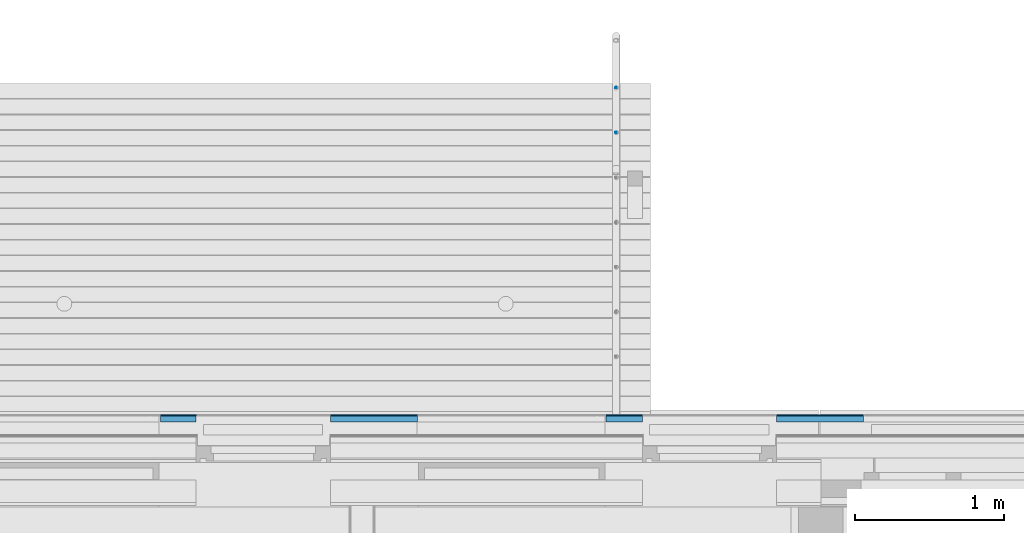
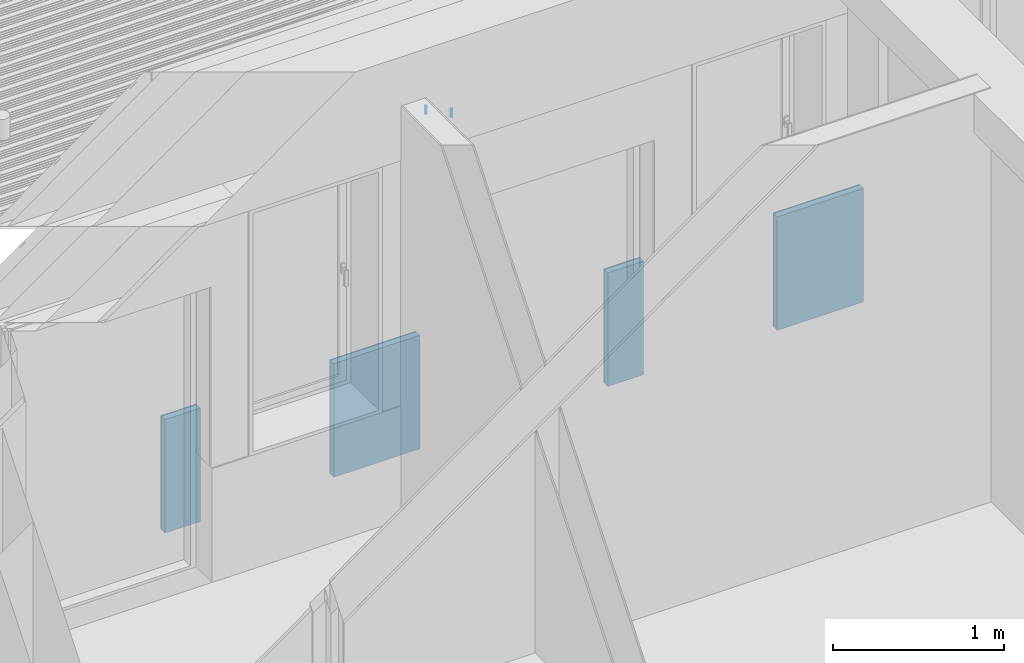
# One storey, part 65 of 418: 9 building element parts, 6 elements without a shape of their own.
"""IFC2X3 building model written with IfcOpenShell, lengths in millimetres."""

from ifc_helpers import new_model, entity, si_unit, converted_unit, derived_unit, money_unit, direction, frame, origin_with_axes, place, context, subcontext, project, spatial, polyline, outline, extrude, faceted_brep, source, transform, mapped, material, type_object, element, aggregate, save


model = new_model("IFC2X3")

# Units and contexts
model_context = context("Model", 3, precision=0.01, world=origin_with_axes(), true_north=direction((0.0, 1.0)))
body_context = subcontext(model_context, "Body", "Model", "MODEL_VIEW")
ifc_project = project(units=[si_unit("LENGTHUNIT", "METRE", prefix="MILLI"), si_unit("AREAUNIT", "SQUARE_METRE"), si_unit("VOLUMEUNIT", "CUBIC_METRE"), converted_unit("PLANEANGLEUNIT", "DEGREE", entity("IfcPlaneAngleMeasure", 0.0174532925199), si_unit("PLANEANGLEUNIT", "RADIAN"), dimensions=[0, 0, 0, 0, 0, 0, 0]), si_unit("SOLIDANGLEUNIT", "STERADIAN"), money_unit("EUR"), converted_unit("TIMEUNIT", "Year", entity("IfcTimeMeasure", 31556926.0), si_unit("TIMEUNIT", "SECOND"), dimensions=[0, 0, 1, 0, 0, 0, 0]), si_unit("MASSUNIT", "GRAM", prefix="KILO"), si_unit("THERMODYNAMICTEMPERATUREUNIT", "DEGREE_CELSIUS"), si_unit("LUMINOUSINTENSITYUNIT", "LUMEN"), si_unit("ENERGYUNIT", "JOULE", prefix="MEGA"), derived_unit("THERMALCONDUCTANCEUNIT", [(si_unit("POWERUNIT", "WATT"), 1), (si_unit("LENGTHUNIT", "METRE"), -1), (si_unit("THERMODYNAMICTEMPERATUREUNIT", "KELVIN"), -1)]), derived_unit("SPECIFICHEATCAPACITYUNIT", [(si_unit("ENERGYUNIT", "JOULE"), 1), (si_unit("MASSUNIT", "GRAM", prefix="KILO"), -1), (si_unit("THERMODYNAMICTEMPERATUREUNIT", "KELVIN"), -1)]), derived_unit("MASSDENSITYUNIT", [(si_unit("MASSUNIT", "GRAM", prefix="KILO"), 1), (si_unit("VOLUMEUNIT", "CUBIC_METRE"), -1)])], contexts=[model_context])

# Site, building, storey
site_placement = place(None, origin_with_axes())
site = spatial("IfcSite", under=ifc_project, at=site_placement, Name="Paldiski mnt 245/1, Tallinn, Harjumaa", CompositionType="COMPLEX")
building_placement = place(site_placement, origin_with_axes())
building = spatial("IfcBuilding", under=site, at=building_placement, Name="RKAS Hoone üldnimetus (kasutust iseloomustav) -> IFC Project Manager -> SOLIBRI", CompositionType="ELEMENT")
storey_placement = place(building_placement, origin_with_axes())
storey = spatial("IfcBuildingStorey", under=building, at=storey_placement, Name="Esimene korrus", CompositionType="ELEMENT", Elevation=0.0)

# Proxies, building element part
building_element_proxy_type_1 = type_object("IfcBuildingElementProxyType", Name="Railing Type", PredefinedType="NOTDEFINED")
proxy_1_placement = place(storey_placement, frame((-36811.0, 460.000000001, -500.846302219), z_axis=(0.0, 0.0, 1.0), x_axis=(1.0, 0.0, 0.0)))
proxy_1 = element("IfcBuildingElementProxy", 1, at=proxy_1_placement, inside=storey, type_object=building_element_proxy_type_1, Name="Trepipiire")
building_element_proxy_type_2 = type_object("IfcBuildingElementProxyType", Name="IfcBuildingElementProxy", PredefinedType="NOTDEFINED")
proxy_2_placement = place(proxy_1_placement, frame((0.0, 2144.92080789, 944.098300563), z_axis=(0.0, 0.0, 1.0), x_axis=(1.0, 0.0, 0.0)))
proxy_2 = element("IfcBuildingElementProxy", 2, at=proxy_2_placement, type_object=building_element_proxy_type_2, Name="ÜL PIIRE - 001")
aggregate(proxy_1, [proxy_2])
ifc_material_1 = material(Name="Teras - Konstruktsioon")
shared_shape = source(origin_with_axes(), body_context, "Body", "Brep", [
    faceted_brep([(-4.33012701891, 268.041857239, 748.809799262), (-3.83022221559, 267.32791919, 748.809799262), (-3.83022221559, 267.32791919, 801.480453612), (-4.33012701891, 268.041857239, 801.480453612), (-4.69846310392, 268.831756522, 748.809799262), (-4.92403876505, 269.67361635, 748.809799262), (-4.99999999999, 270.541857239, 748.809799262), (-4.92403876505, 271.410098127, 748.809799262), (-4.69846310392, 272.251957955, 748.809799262), (-4.33012701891, 273.041857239, 748.809799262), (-3.83022221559, 273.755795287, 748.809799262), (-3.21393804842, 274.372079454, 748.809799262), (-2.49999999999, 274.871984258, 748.809799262), (-1.71010071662, 275.240320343, 748.809799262), (-0.868240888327, 275.465896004, 748.809799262), (0.0, 275.541857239, 748.809799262), (0.868240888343, 275.465896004, 748.809799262), (1.71010071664, 275.240320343, 748.809799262), (2.50000000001, 274.871984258, 748.809799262), (3.21393804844, 274.372079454, 748.809799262), (3.8302222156, 273.755795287, 748.809799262), (4.33012701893, 273.041857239, 748.809799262), (4.69846310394, 272.251957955, 748.809799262), (4.92403876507, 271.410098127, 748.809799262), (5.00000000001, 270.541857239, 748.809799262), (4.92403876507, 269.67361635, 748.809799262), (4.69846310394, 268.831756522, 748.809799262), (4.33012701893, 268.041857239, 748.809799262), (3.8302222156, 267.32791919, 748.809799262), (3.21393804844, 266.711635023, 748.809799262), (2.50000000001, 266.21173022, 748.809799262), (1.71010071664, 265.843394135, 748.809799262), (0.868240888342, 265.617818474, 748.809799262), (0.0, 265.541857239, 748.809799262), (-0.868240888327, 265.617818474, 748.809799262), (-1.71010071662, 265.843394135, 748.809799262), (-2.49999999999, 266.21173022, 748.809799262), (-3.21393804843, 266.711635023, 748.809799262), (-3.21393804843, 266.711635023, 801.480453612), (-4.69846310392, 268.831756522, 801.480453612), (-2.49999999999, 266.21173022, 801.480453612), (-1.71010071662, 265.843394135, 801.480453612), (-0.868240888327, 265.617818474, 801.480453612), (0.0, 265.541857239, 801.480453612), (0.868240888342, 265.617818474, 801.480453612), (1.71010071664, 265.843394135, 801.480453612), (2.50000000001, 266.21173022, 801.480453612), (3.21393804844, 266.711635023, 801.480453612), (3.8302222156, 267.32791919, 801.480453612), (4.33012701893, 268.041857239, 801.480453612), (4.69846310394, 268.831756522, 801.480453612), (4.92403876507, 269.67361635, 801.480453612), (5.00000000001, 270.541857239, 801.480453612), (-4.99999999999, 270.541857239, 801.480453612), (-4.92403876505, 269.67361635, 801.480453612), (-4.92403876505, 271.410098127, 801.016699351), (-4.69846310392, 272.251957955, 800.567036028), (-4.33012701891, 273.041857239, 800.145126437), (-3.83022221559, 273.755795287, 799.763790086), (-3.21393804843, 274.372079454, 799.434613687), (-2.49999999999, 274.871984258, 799.1675991), (-1.71010071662, 275.240320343, 798.970859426), (-0.868240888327, 275.465896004, 798.850372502), (0.0, 275.541857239, 798.809799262), (0.868240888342, 275.465896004, 798.850372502), (1.71010071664, 275.240320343, 798.970859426), (2.50000000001, 274.871984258, 799.1675991), (3.21393804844, 274.372079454, 799.434613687), (3.8302222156, 273.755795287, 799.763790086), (4.33012701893, 273.041857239, 800.145126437), (4.69846310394, 272.251957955, 800.567036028), (4.92403876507, 271.410098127, 801.016699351)], [[[0, 1, 2, 3]], [[4, 5, 6, 7, 8, 9, 10, 11, 12, 13, 14, 15, 16, 17, 18, 19, 20, 21, 22, 23, 24, 25, 26, 27, 28, 29, 30, 31, 32, 33, 34, 35, 36, 37, 1, 0]], [[1, 37, 38, 2]], [[39, 3, 2, 38, 40, 41, 42, 43, 44, 45, 46, 47, 48, 49, 50, 51, 52, 53, 54]], [[4, 0, 3, 39]], [[5, 4, 39, 54]], [[6, 5, 54, 53]], [[7, 6, 53, 55]], [[8, 7, 55, 56]], [[8, 56, 57, 9]], [[10, 9, 57, 58]], [[11, 10, 58, 59]], [[12, 11, 59, 60]], [[13, 12, 60, 61]], [[14, 13, 61, 62]], [[15, 14, 62, 63]], [[16, 15, 63, 64]], [[65, 17, 16, 64]], [[18, 17, 65, 66]], [[19, 18, 66, 67]], [[19, 67, 68, 20]], [[21, 20, 68, 69]], [[22, 21, 69, 70]], [[23, 22, 70, 71]], [[24, 23, 71, 52]], [[25, 24, 52, 51]], [[26, 25, 51, 50]], [[27, 26, 50, 49]], [[28, 27, 49, 48]], [[29, 28, 48, 47]], [[46, 30, 29, 47]], [[31, 30, 46, 45]], [[32, 31, 45, 44]], [[33, 32, 44, 43]], [[34, 33, 43, 42]], [[35, 34, 42, 41]], [[36, 35, 41, 40]], [[37, 36, 40, 38]], [[56, 55, 53, 52, 71, 70, 69, 68, 67, 66, 65, 64, 63, 62, 61, 60, 59, 58, 57]]]),
    faceted_brep([(-3.83022221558, 567.32791919, 588.570538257), (-3.21393804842, 566.711635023, 588.570538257), (-3.21393804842, 566.711635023, 641.241192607), (-3.83022221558, 567.32791919, 641.241192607), (-4.3301270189, 568.041857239, 588.570538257), (-4.69846310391, 568.831756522, 588.570538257), (-4.92403876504, 569.67361635, 588.570538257), (-4.99999999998, 570.541857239, 588.570538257), (-4.92403876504, 571.410098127, 588.570538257), (-4.69846310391, 572.251957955, 588.570538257), (-4.3301270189, 573.041857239, 588.570538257), (-3.83022221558, 573.755795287, 588.570538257), (-3.21393804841, 574.372079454, 588.570538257), (-2.49999999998, 574.871984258, 588.570538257), (-1.71010071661, 575.240320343, 588.570538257), (-0.868240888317, 575.465896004, 588.570538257), (0.0, 575.541857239, 588.570538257), (0.868240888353, 575.465896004, 588.570538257), (1.71010071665, 575.240320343, 588.570538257), (2.50000000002, 574.871984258, 588.570538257), (3.21393804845, 574.372079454, 588.570538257), (3.83022221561, 573.755795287, 588.570538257), (4.33012701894, 573.041857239, 588.570538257), (4.69846310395, 572.251957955, 588.570538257), (4.92403876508, 571.410098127, 588.570538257), (5.00000000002, 570.541857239, 588.570538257), (4.92403876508, 569.67361635, 588.570538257), (4.69846310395, 568.831756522, 588.570538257), (4.33012701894, 568.041857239, 588.570538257), (3.83022221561, 567.32791919, 588.570538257), (3.21393804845, 566.711635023, 588.570538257), (2.50000000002, 566.21173022, 588.570538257), (1.71010071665, 565.843394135, 588.570538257), (0.868240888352, 565.617818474, 588.570538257), (0.0, 565.541857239, 588.570538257), (-0.868240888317, 565.617818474, 588.570538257), (-1.71010071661, 565.843394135, 588.570538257), (-2.49999999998, 566.21173022, 588.570538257), (-2.49999999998, 566.21173022, 641.241192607), (-4.3301270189, 568.041857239, 641.241192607), (-1.71010071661, 565.843394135, 641.241192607), (-0.868240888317, 565.617818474, 641.241192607), (0.0, 565.541857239, 641.241192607), (0.868240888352, 565.617818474, 641.241192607), (1.71010071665, 565.843394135, 641.241192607), (2.50000000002, 566.21173022, 641.241192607), (3.21393804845, 566.711635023, 641.241192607), (3.83022221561, 567.32791919, 641.241192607), (4.33012701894, 568.041857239, 641.241192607), (4.69846310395, 568.831756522, 641.241192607), (4.92403876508, 569.67361635, 641.241192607), (5.00000000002, 570.541857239, 641.241192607), (-4.99999999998, 570.541857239, 641.241192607), (-4.92403876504, 569.67361635, 641.241192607), (-4.69846310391, 568.831756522, 641.241192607), (-4.92403876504, 571.410098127, 640.777438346), (-4.69846310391, 572.251957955, 640.327775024), (-4.3301270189, 573.041857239, 639.905865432), (-3.83022221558, 573.755795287, 639.524529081), (-3.21393804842, 574.372079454, 639.195352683), (-2.49999999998, 574.871984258, 638.928338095), (-1.71010071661, 575.240320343, 638.731598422), (-0.868240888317, 575.465896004, 638.611111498), (0.0, 575.541857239, 638.570538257), (0.868240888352, 575.465896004, 638.611111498), (1.71010071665, 575.240320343, 638.731598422), (2.50000000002, 574.871984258, 638.928338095), (3.21393804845, 574.372079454, 639.195352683), (3.83022221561, 573.755795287, 639.524529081), (4.33012701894, 573.041857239, 639.905865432), (4.69846310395, 572.251957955, 640.327775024), (4.92403876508, 571.410098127, 640.777438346)], [[[0, 1, 2, 3]], [[4, 5, 6, 7, 8, 9, 10, 11, 12, 13, 14, 15, 16, 17, 18, 19, 20, 21, 22, 23, 24, 25, 26, 27, 28, 29, 30, 31, 32, 33, 34, 35, 36, 37, 1, 0]], [[1, 37, 38, 2]], [[39, 3, 2, 38, 40, 41, 42, 43, 44, 45, 46, 47, 48, 49, 50, 51, 52, 53, 54]], [[4, 0, 3, 39]], [[5, 4, 39, 54]], [[53, 6, 5, 54]], [[7, 6, 53, 52]], [[8, 7, 52, 55]], [[9, 8, 55, 56]], [[9, 56, 57, 10]], [[11, 10, 57, 58]], [[12, 11, 58, 59]], [[13, 12, 59, 60]], [[14, 13, 60, 61]], [[15, 14, 61, 62]], [[16, 15, 62, 63]], [[17, 16, 63, 64]], [[65, 18, 17, 64]], [[19, 18, 65, 66]], [[20, 19, 66, 67]], [[20, 67, 68, 21]], [[22, 21, 68, 69]], [[23, 22, 69, 70]], [[24, 23, 70, 71]], [[25, 24, 71, 51]], [[26, 25, 51, 50]], [[27, 26, 50, 49]], [[28, 27, 49, 48]], [[29, 28, 48, 47]], [[30, 29, 47, 46]], [[31, 30, 46, 45]], [[32, 31, 45, 44]], [[33, 32, 44, 43]], [[34, 33, 43, 42]], [[35, 34, 42, 41]], [[36, 35, 41, 40]], [[37, 36, 40, 38]], [[56, 55, 52, 51, 71, 70, 69, 68, 67, 66, 65, 64, 63, 62, 61, 60, 59, 58, 57]]]),
])
building_element_part_1_placement = place(proxy_2_placement, origin_with_axes())
building_element_part_1 = element("IfcBuildingElementPart", 3, at=building_element_part_1_placement, material=ifc_material_1, Name="Teras - Konstruktsioon", context=body_context, shape_type="MappedRepresentation", body=[
    mapped(shared_shape, transform((0.0, -475.12030685, -463.251998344))),
])
aggregate(proxy_2, [building_element_part_1])

# Covering, building element parts
covering_type = type_object("IfcCoveringType", Name="VS-02_Cembrit_c040 50", PredefinedType="NOTDEFINED")
covering_1_placement = place(storey_placement, frame((-39626.0, 460.000000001, 0.999999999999), z_axis=(0.0, 0.0, 1.0), x_axis=(-1.0, 0.0, 0.0)))
covering_1 = element("IfcCovering", 4, at=covering_1_placement, inside=storey, type_object=covering_type, Name="VS-02", PredefinedType="NOTDEFINED")
ifc_material_2 = material(Name="Cembrit_C040")
building_element_part_2_placement = place(covering_1_placement, origin_with_axes())
building_element_part_2 = element("IfcBuildingElementPart", 5, at=building_element_part_2_placement, material=ifc_material_2, Name="Cembrit_C040", context=body_context, shape_type="SweptSolid", body=[
    extrude(outline(polyline([(0.0, -50.0), (239.0, -50.0), (239.0, -42.0), (0.0, -42.0), (0.0, -50.0)])), origin_with_axes(), (0.0, 0.0, 1.0), 810.0),
])
ifc_material_3 = material(Name="VKR-06_Õhkvahe")
building_element_part_3_placement = place(covering_1_placement, origin_with_axes())
building_element_part_3 = element("IfcBuildingElementPart", 6, at=building_element_part_3_placement, material=ifc_material_3, Name="VKR-06_Õhkvahe", context=body_context, shape_type="SweptSolid", body=[
    extrude(outline(polyline([(0.0, -42.0), (239.0, -42.0), (239.0, 0.0), (0.0, 0.0), (0.0, -42.0)])), origin_with_axes(), (0.0, 0.0, 1.0), 810.0),
])
aggregate(covering_1, [building_element_part_2, building_element_part_3])

covering_2_placement = place(storey_placement, frame((-35154.0, 460.000000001, 0.999999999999), z_axis=(0.0, 0.0, 1.0), x_axis=(-1.0, 0.0, 0.0)))
covering_2 = element("IfcCovering", 7, at=covering_2_placement, inside=storey, type_object=covering_type, Name="VS-02", PredefinedType="NOTDEFINED")
building_element_part_4_placement = place(covering_2_placement, origin_with_axes())
building_element_part_4 = element("IfcBuildingElementPart", 8, at=building_element_part_4_placement, material=ifc_material_2, Name="Cembrit_C040", context=body_context, shape_type="SweptSolid", body=[
    extrude(outline(polyline([(0.0, -50.0), (582.0, -50.0), (582.0, -42.0), (0.0, -42.0), (0.0, -50.0)])), origin_with_axes(), (0.0, 0.0, 1.0), 810.0),
])
building_element_part_5_placement = place(covering_2_placement, origin_with_axes())
building_element_part_5 = element("IfcBuildingElementPart", 9, at=building_element_part_5_placement, material=ifc_material_3, Name="VKR-06_Õhkvahe", context=body_context, shape_type="SweptSolid", body=[
    extrude(outline(polyline([(0.0, -42.0), (582.0, -42.0), (582.0, 0.0), (0.0, 0.0), (0.0, -42.0)])), origin_with_axes(), (0.0, 0.0, 1.0), 810.0),
])
aggregate(covering_2, [building_element_part_4, building_element_part_5])

covering_3_placement = place(storey_placement, frame((-36636.0, 460.000000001, 0.999999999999), z_axis=(0.0, 0.0, 1.0), x_axis=(-1.0, 0.0, 0.0)))
covering_3 = element("IfcCovering", 10, at=covering_3_placement, inside=storey, type_object=covering_type, Name="VS-02", PredefinedType="NOTDEFINED")
building_element_part_6_placement = place(covering_3_placement, origin_with_axes())
building_element_part_6 = element("IfcBuildingElementPart", 11, at=building_element_part_6_placement, material=ifc_material_2, Name="Cembrit_C040", context=body_context, shape_type="SweptSolid", body=[
    extrude(outline(polyline([(0.0, -50.0), (242.196773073, -50.0), (242.196773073, -42.0), (0.0, -42.0), (0.0, -50.0)])), origin_with_axes(), (0.0, 0.0, 1.0), 810.0),
])
building_element_part_7_placement = place(covering_3_placement, origin_with_axes())
building_element_part_7 = element("IfcBuildingElementPart", 12, at=building_element_part_7_placement, material=ifc_material_3, Name="VKR-06_Õhkvahe", context=body_context, shape_type="SweptSolid", body=[
    extrude(outline(polyline([(0.0, -42.0), (242.196773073, -42.0), (242.196773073, 0.0), (0.0, 0.0), (0.0, -42.0)])), origin_with_axes(), (0.0, 0.0, 1.0), 810.0),
])
aggregate(covering_3, [building_element_part_6, building_element_part_7])

covering_4_placement = place(storey_placement, frame((-38144.0, 460.000000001, 0.999999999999), z_axis=(0.0, 0.0, 1.0), x_axis=(-1.0, 0.0, 0.0)))
covering_4 = element("IfcCovering", 13, at=covering_4_placement, inside=storey, type_object=covering_type, Name="VS-02", PredefinedType="NOTDEFINED")
building_element_part_8_placement = place(covering_4_placement, origin_with_axes())
building_element_part_8 = element("IfcBuildingElementPart", 14, at=building_element_part_8_placement, material=ifc_material_2, Name="Cembrit_C040", context=body_context, shape_type="SweptSolid", body=[
    extrude(outline(polyline([(0.0, -50.0), (582.0, -50.0), (582.0, -42.0), (0.0, -42.0), (0.0, -50.0)])), origin_with_axes(), (0.0, 0.0, 1.0), 810.0),
])
building_element_part_9_placement = place(covering_4_placement, origin_with_axes())
building_element_part_9 = element("IfcBuildingElementPart", 15, at=building_element_part_9_placement, material=ifc_material_3, Name="VKR-06_Õhkvahe", context=body_context, shape_type="SweptSolid", body=[
    extrude(outline(polyline([(0.0, -42.0), (582.0, -42.0), (582.0, 0.0), (0.0, 0.0), (0.0, -42.0)])), origin_with_axes(), (0.0, 0.0, 1.0), 810.0),
])
aggregate(covering_4, [building_element_part_8, building_element_part_9])

save(model, "model.ifc")
